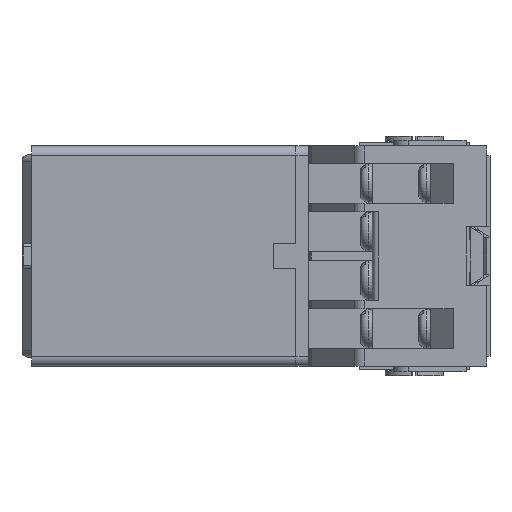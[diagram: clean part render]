
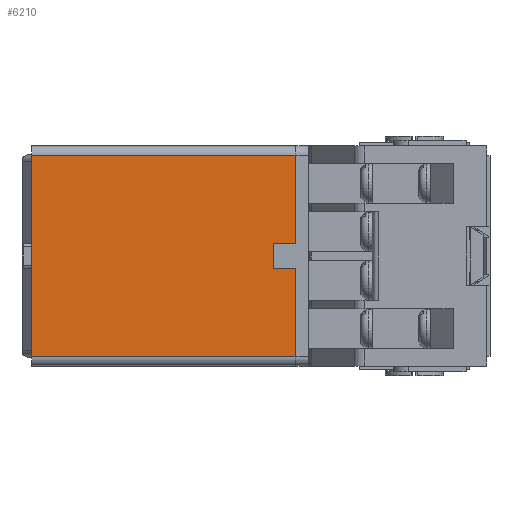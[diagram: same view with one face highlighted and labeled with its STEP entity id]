
A CAD part, left-side view. The second image highlights one B-rep face of the part: STEP entity #6210.
In plain terms, the highlighted planar face has unit normal (-1, 0, 0) as drawn and (1, 0, 0) by its records, which use the part's own axes.
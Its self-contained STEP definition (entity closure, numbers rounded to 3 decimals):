
#6210=ADVANCED_FACE('',(#17752),#17754,.T.);
#17752=FACE_BOUND('',#17753,.T.);
#17753=EDGE_LOOP('',(#26841,#26842,#26843,#26844,#26845,#26846,#26847,#26848));
#17754=PLANE('',#17755);
#17755=AXIS2_PLACEMENT_3D('',#17756,#17757,#17758);
#17756=CARTESIAN_POINT('',(17.5,44.3,-15.6));
#17757=DIRECTION('',(1.,0.,0.));
#17758=DIRECTION('',(0.,0.,1.));
#26841=ORIENTED_EDGE('',*,*,#32928,.T.);
#26842=ORIENTED_EDGE('',*,*,#32917,.F.);
#26843=ORIENTED_EDGE('',*,*,#32947,.F.);
#26844=ORIENTED_EDGE('',*,*,#32948,.T.);
#26845=ORIENTED_EDGE('',*,*,#32949,.T.);
#26846=ORIENTED_EDGE('',*,*,#32909,.F.);
#26847=ORIENTED_EDGE('',*,*,#32932,.T.);
#26848=ORIENTED_EDGE('',*,*,#32930,.T.);
#32909=EDGE_CURVE('',#37788,#37790,#37791,.T.);
#32917=EDGE_CURVE('',#37804,#37806,#37807,.T.);
#32928=EDGE_CURVE('',#37822,#37806,#37823,.F.);
#32930=EDGE_CURVE('',#37825,#37822,#37826,.F.);
#32932=EDGE_CURVE('',#37788,#37825,#37828,.F.);
#32947=EDGE_CURVE('',#37853,#37804,#37854,.T.);
#32948=EDGE_CURVE('',#37853,#37855,#37856,.T.);
#32949=EDGE_CURVE('',#37855,#37790,#37857,.T.);
#37788=VERTEX_POINT('',#47526);
#37790=VERTEX_POINT('',#47530);
#37791=LINE('',#47531,#47532);
#37804=VERTEX_POINT('',#47561);
#37806=VERTEX_POINT('',#47566);
#37807=LINE('',#47567,#47568);
#37822=VERTEX_POINT('',#47608);
#37823=LINE('',#47609,#47610);
#37825=VERTEX_POINT('',#47615);
#37826=LINE('',#47616,#47617);
#37828=LINE('',#47622,#47623);
#37853=VERTEX_POINT('',#47679);
#37854=LINE('',#47680,#47681);
#37855=VERTEX_POINT('',#47683);
#37856=LINE('',#47684,#47685);
#37857=LINE('',#47687,#47688);
#47526=CARTESIAN_POINT('',(17.5,3.5,2.));
#47530=CARTESIAN_POINT('',(17.5,3.5,15.6));
#47531=CARTESIAN_POINT('',(17.5,3.5,2.));
#47532=VECTOR('',#47533,1.);
#47533=DIRECTION('',(0.,0.,1.));
#47561=CARTESIAN_POINT('',(17.5,3.5,-15.6));
#47566=CARTESIAN_POINT('',(17.5,3.5,-2.));
#47567=CARTESIAN_POINT('',(17.5,3.5,-15.6));
#47568=VECTOR('',#47569,1.);
#47569=DIRECTION('',(0.,0.,1.));
#47608=CARTESIAN_POINT('',(17.5,7.017,-2.));
#47609=CARTESIAN_POINT('',(17.5,3.5,-2.));
#47610=VECTOR('',#47611,1.);
#47611=DIRECTION('',(0.,1.,0.));
#47615=CARTESIAN_POINT('',(17.5,7.017,2.));
#47616=CARTESIAN_POINT('',(17.5,7.017,-2.));
#47617=VECTOR('',#47618,1.);
#47618=DIRECTION('',(0.,0.,1.));
#47622=CARTESIAN_POINT('',(17.5,7.017,2.));
#47623=VECTOR('',#47624,1.);
#47624=DIRECTION('',(0.,-1.,0.));
#47679=CARTESIAN_POINT('',(17.5,44.3,-15.6));
#47680=CARTESIAN_POINT('',(17.5,44.3,-15.6));
#47681=VECTOR('',#47682,1.);
#47682=DIRECTION('',(0.,-1.,0.));
#47683=CARTESIAN_POINT('',(17.5,44.3,15.6));
#47684=CARTESIAN_POINT('',(17.5,44.3,-15.6));
#47685=VECTOR('',#47686,1.);
#47686=DIRECTION('',(0.,0.,1.));
#47687=CARTESIAN_POINT('',(17.5,44.3,15.6));
#47688=VECTOR('',#47689,1.);
#47689=DIRECTION('',(0.,-1.,0.));
